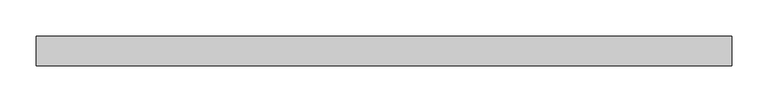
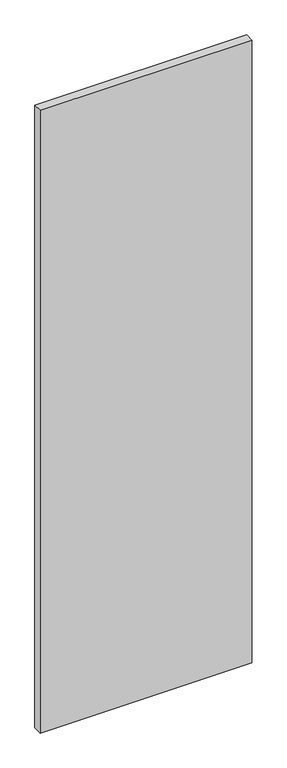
"""IFC4 building model written with IfcOpenShell, lengths in millimetres: plate geometry, Vitré."""

from ifc_helpers import new_model, si_unit, origin, origin_with_axes, place, context, project, spatial, polyline, outline, extrude, source, transform, mapped, element, save


def plate_309090d4(model_context):
    return source(origin(), model_context, "Body", "SweptSolid", [
        extrude(outline(polyline([(-476.2147633, -20.0), (-476.2147633, 20.0), (476.2147633, 20.0), (476.2147633, -20.0), (-476.2147633, -20.0)])), origin_with_axes(), (0.0, 0.0, 1.0), 2960.0),
    ])


if __name__ == "__main__":
    model = new_model("IFC4")
    model_context = context("Model", 3, world=origin())
    ifc_project = project(units=[si_unit("LENGTHUNIT", "METRE", prefix="MILLI")], contexts=[model_context])
    site = spatial("IfcSite", under=ifc_project)
    building = spatial("IfcBuilding", under=site)
    placement = place(None, origin())
    plate_shape = plate_309090d4(model_context)
    element("IfcPlate", 1, ObjectType="Vitré", at=placement, inside=building, context=model_context, shape_type="MappedRepresentation", body=[
        mapped(plate_shape, transform((0.0, 0.0, 0.0), x_axis=(1.0, 0.0, 0.0), y_axis=(0.0, 1.0, 0.0), z_axis=(0.0, 0.0, 1.0))),
    ])
    save(model, "model.ifc")
